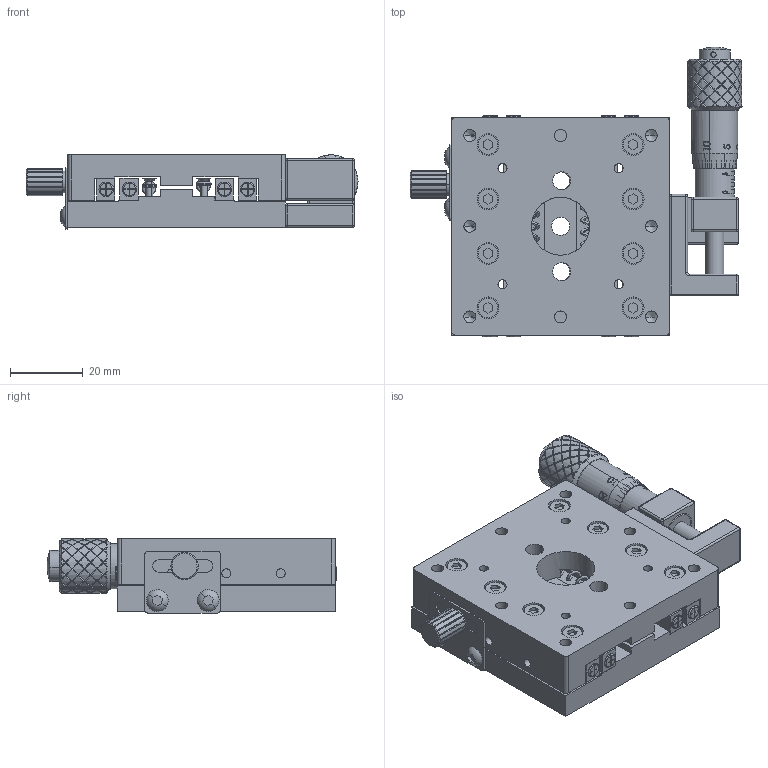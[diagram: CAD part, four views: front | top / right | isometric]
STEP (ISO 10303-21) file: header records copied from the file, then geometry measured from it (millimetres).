
FILE_DESCRIPTION (( 'STEP AP203' ), '1' );
FILE_NAME ('TSJ60-05.STEP', '2014-08-29T00:42:10', ( '¦K¬P' ), ( '' ), 'SwSTEP 2.0', 'SolidWorks 2012', '' );
FILE_SCHEMA (( 'CONFIG_CONTROL_DESIGN' ));
Products named in the file (19): TSJ60-05; TSJ60; ψ7.5X11.5L; 固定片-42; M2.5x0.45P; TSJ60､U1.SLDASM; ψ6X1L; 頂點座; 分離卡座1; TSJ60､U; TSJ60､W; M3圓頭; M3x0.5P; M2x0.4P皿頭5L; 50L; 分厘卡; 螺絲1; 後管1; 前管1
Assembly tree (44 placements, depth 3):
  TSJ60-05
    分厘卡
      前管1
      後管1
      螺絲1
    TSJ60
      50L  x2
      M2x0.4P皿頭5L  x4
      M3x0.5P  x16
      M3圓頭  x2
      TSJ60､W
      TSJ60､U
      分離卡座1
      頂點座
      ψ6X1L
      TSJ60､U1.SLDASM  x4
      M2.5x0.45P  x4
      固定片-42
      ψ7.5X11.5L
Bounding box: 91.5 x 79.9 x 20.5 mm (x, y, z)
Volume: 70166.6 mm3; surface area: 45145.2 mm2
Topology: 57 solids, 57 shells, 2056 faces, 5421 edges, 3514 vertices
Faces by surface type: plane 970, cylinder 544, bspline 409, cone 66, torus 40, sphere 27
Entity records: 90549 total; most frequent: CARTESIAN_POINT 51475, ORIENTED_EDGE 8594, DIRECTION 6264, EDGE_CURVE 4297, VERTEX_POINT 2808, AXIS2_PLACEMENT_3D 2278, EDGE_LOOP 1847, LINE 1708
